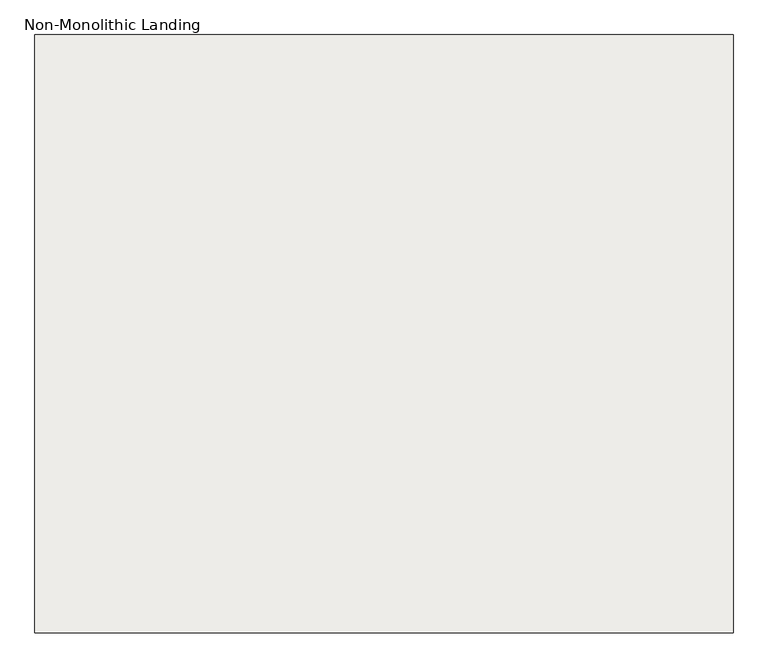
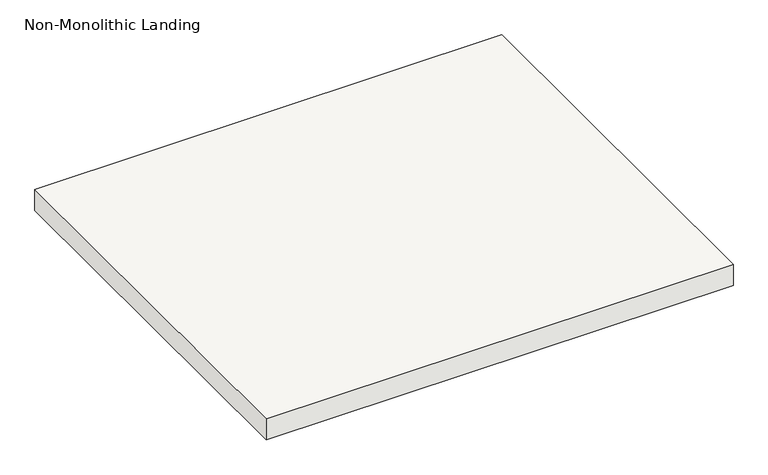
"""IFC4 building model written with IfcOpenShell, lengths in millimetres: slab geometry, Non-Monolithic Landing."""

from ifc_helpers import new_model, si_unit, frame, origin, place, context, project, spatial, polyline, outline, extrude, source, transform, mapped, element, save


def non_monolithic_landing_8dc55f4e(model_context):
    return source(origin(), model_context, "Body", "SweptSolid", [
        extrude(outline(polyline([(88533.2550425, -34679.081782), (89600.0550425, -34679.081782), (89600.0550425, -35593.481782), (88533.2550425, -35593.481782), (88533.2550425, -34679.081782)])), frame((0.0, 0.0, 2195.0947368), z_axis=(0.0, 0.0, 1.0), x_axis=(1.0, 0.0, 0.0)), (0.0, 0.0, 1.0), 50.8),
    ])


if __name__ == "__main__":
    model = new_model("IFC4")
    model_context = context("Model", 3, world=origin())
    ifc_project = project(units=[si_unit("LENGTHUNIT", "METRE", prefix="MILLI")], contexts=[model_context])
    site = spatial("IfcSite", under=ifc_project)
    building = spatial("IfcBuilding", under=site)
    placement = place(None, origin())
    non_monolithic_landing_shape = non_monolithic_landing_8dc55f4e(model_context)
    element("IfcSlab", 1, ObjectType="Non-Monolithic Landing", at=placement, inside=building, context=model_context, shape_type="MappedRepresentation", body=[
        mapped(non_monolithic_landing_shape, transform((0.0, 0.0, 0.0), x_axis=(1.0, 0.0, 0.0), y_axis=(0.0, 1.0, 0.0), z_axis=(0.0, 0.0, 1.0))),
    ])
    save(model, "model.ifc")
